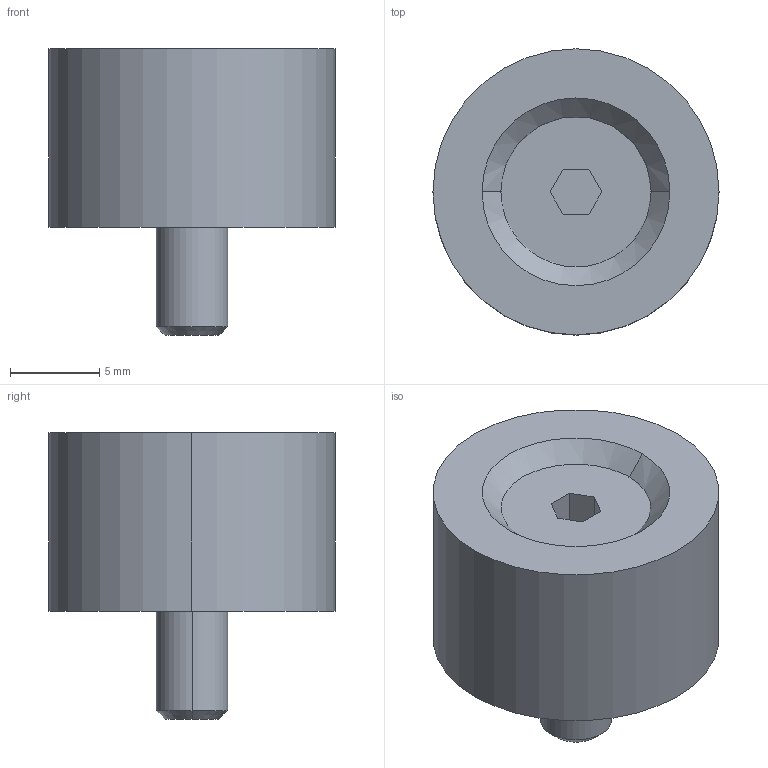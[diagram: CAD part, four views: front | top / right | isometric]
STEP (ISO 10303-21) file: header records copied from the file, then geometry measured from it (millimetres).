
FILE_DESCRIPTION (( 'STEP AP203' ), '1' );
FILE_NAME ('TPS16-10-1.STEP', '2024-06-05T21:39:33', ( '' ), ( '' ), 'SwSTEP 2.0', 'SolidWorks 2017', '' );
FILE_SCHEMA (( 'CONFIG_CONTROL_DESIGN' ));
Length unit declared in the file: millimetre
Products named in the file (3): TPS16-10-1; TPS16-10-1.sldasm-Part-1; TPS16-10-1.sldasm-Part-2
Assembly tree (2 placements, depth 2):
  TPS16-10-1
    TPS16-10-1.sldasm-Part-1
    TPS16-10-1.sldasm-Part-2
Bounding box: 16 x 16 x 16.05 mm (x, y, z)
Volume: 1977.5 mm3; surface area: 1304 mm2
Topology: 2 solids, 2 shells, 23 faces, 48 edges, 30 vertices
Faces by surface type: plane 11, cone 6, cylinder 6
Entity records: 921 total; most frequent: DIRECTION 122, CARTESIAN_POINT 106, ORIENTED_EDGE 96, EDGE_CURVE 48, AXIS2_PLACEMENT_3D 46, LINE 30, VERTEX_POINT 30, VECTOR 30
